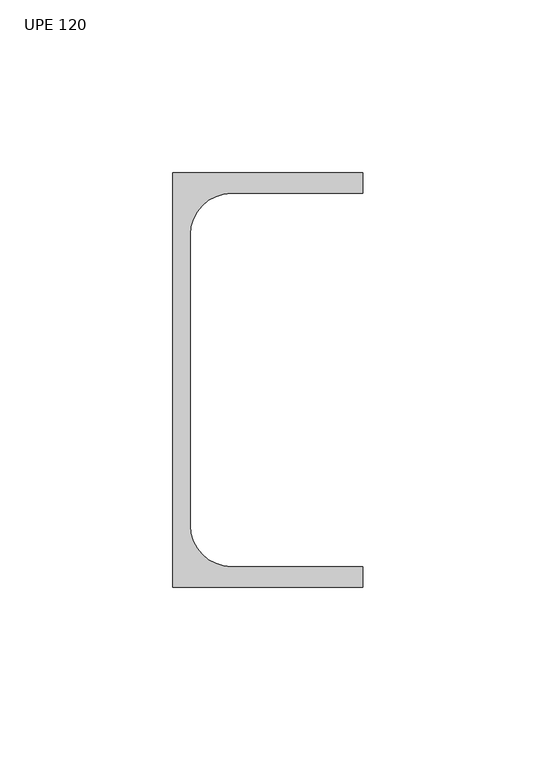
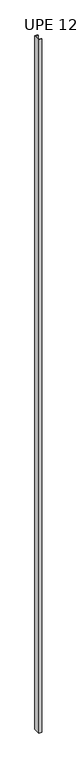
"""IFC4 building model written with IfcOpenShell, lengths in millimetres: column geometry, UPE - Canales de ala paralela - Pilar : UPE 120."""

from ifc_helpers import new_model, si_unit, point, frame_2d, origin, origin_with_axes, place, context, project, spatial, polyline, circle_curve, trimmed, segment, composite_curve, outline, extrude, source, transform, mapped, element, save


def upe_120_001e46b5(model_context):
    return source(origin(), model_context, "Body", "SweptSolid", [
        extrude(outline(composite_curve([segment(polyline([(-19.8, -60.0), (-19.8, 60.0), (35.2, 60.0), (35.2, 54.0), (-2.8, 54.0)]), True, "CONTINUOUS"), segment(trimmed(circle_curve(frame_2d((-2.8, 42.0)), 12.0), [point((-2.8, 54.0))], [point((-14.8, 42.0))], True, "CARTESIAN"), True, "CONTINUOUS"), segment(polyline([(-14.8, 42.0), (-14.8, -42.0)]), True, "CONTINUOUS"), segment(trimmed(circle_curve(frame_2d((-2.8, -42.0)), 12.0), [point((-14.8, -42.0))], [point((-2.8, -54.0))], True, "CARTESIAN"), True, "CONTINUOUS"), segment(polyline([(-2.8, -54.0), (35.2, -54.0), (35.2, -60.0), (-19.8, -60.0)]), True, "CONTINUOUS")], self_intersect=False)), origin_with_axes(), (0.0, 0.0, 1.0), 13070.0),
    ])


if __name__ == "__main__":
    model = new_model("IFC4")
    model_context = context("Model", 3, world=origin())
    ifc_project = project(units=[si_unit("LENGTHUNIT", "METRE", prefix="MILLI")], contexts=[model_context])
    site = spatial("IfcSite", under=ifc_project)
    building = spatial("IfcBuilding", under=site)
    placement = place(None, origin())
    upe_120_shape = upe_120_001e46b5(model_context)
    element("IfcColumn", 1, ObjectType="UPE - Canales de ala paralela - Pilar : UPE 120", at=placement, inside=building, context=model_context, shape_type="MappedRepresentation", body=[
        mapped(upe_120_shape, transform((0.0, 0.0, 0.0), x_axis=(1.0, 0.0, 0.0), y_axis=(0.0, 1.0, 0.0), z_axis=(0.0, 0.0, 1.0))),
    ])
    save(model, "model.ifc")
